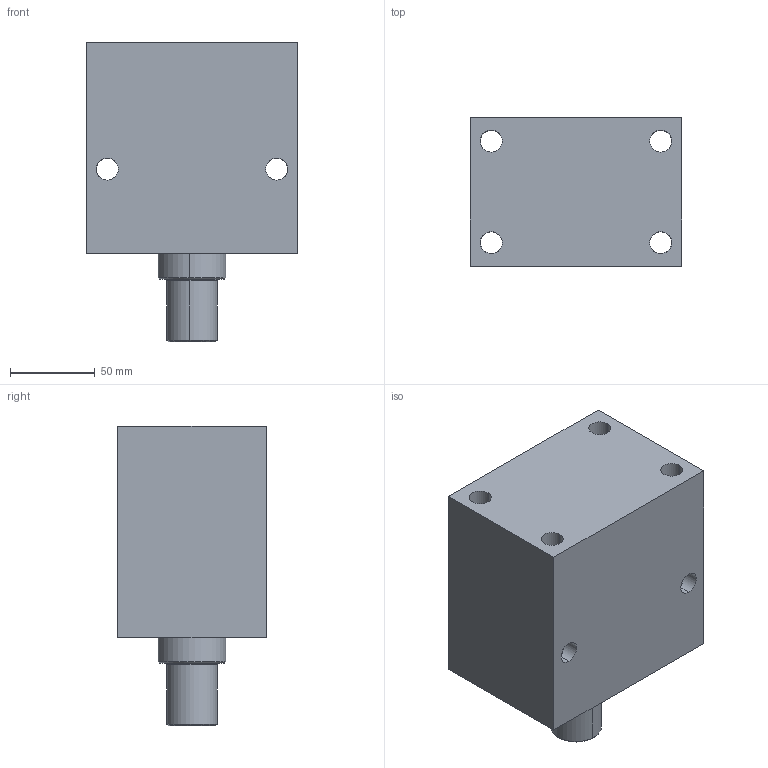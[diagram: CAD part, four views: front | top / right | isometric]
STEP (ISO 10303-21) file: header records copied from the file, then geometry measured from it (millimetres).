
FILE_DESCRIPTION (( 'STEP AP203' ), '1' );
FILE_NAME ('Block cylinder B01C-650M.STEP', '2022-07-09T18:15:13', ( '' ), ( '' ), 'SwSTEP 2.0', 'SolidWorks 2017', '' );
FILE_SCHEMA (( 'CONFIG_CONTROL_DESIGN' ));
Length unit declared in the file: millimetre
Products named in the file (3): Block cylinder B01C-650M; Body_ 650M_50ST; Piston _ 650M
Assembly tree (2 placements, depth 2):
  Block cylinder B01C-650M
    Body_ 650M_50ST
    Piston _ 650M
Bounding box: 125 x 88 x 177 mm (x, y, z)
Volume: 1441355.7 mm3; surface area: 127550.9 mm2
Topology: 2 solids, 2 shells, 354 faces, 961 edges, 628 vertices
Faces by surface type: bspline 161, plane 139, cylinder 46, cone 8
Entity records: 17956 total; most frequent: CARTESIAN_POINT 9873, ORIENTED_EDGE 1914, DIRECTION 1063, EDGE_CURVE 957, VERTEX_POINT 628, VECTOR 539, LINE 539, EDGE_LOOP 395
